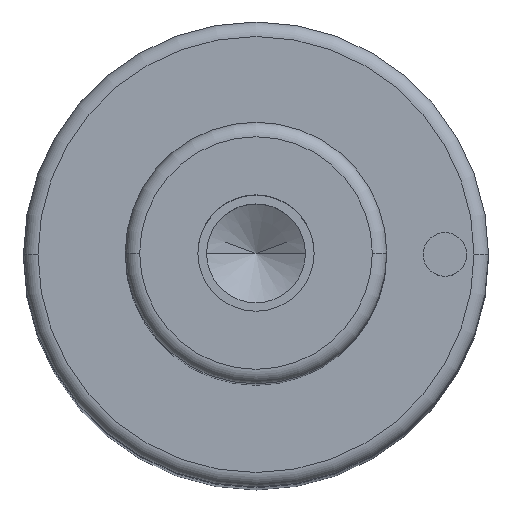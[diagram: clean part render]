
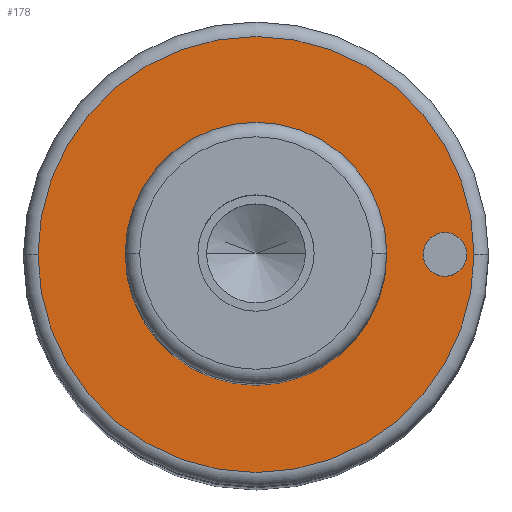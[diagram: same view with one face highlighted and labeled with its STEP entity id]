
A CAD part, top view. The second image highlights one B-rep face of the part: STEP entity #178.
In plain terms, the highlighted planar face has unit normal (0, 0, 1).
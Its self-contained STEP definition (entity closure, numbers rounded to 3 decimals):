
#105=PLANE('',#866);
#115=FACE_BOUND('',#283,.T.);
#116=FACE_BOUND('',#284,.T.);
#117=FACE_BOUND('',#285,.T.);
#178=ADVANCED_FACE('',(#115,#116,#117),#105,.T.);
#283=EDGE_LOOP('',(#473,#474));
#284=EDGE_LOOP('',(#475,#476));
#285=EDGE_LOOP('',(#477,#478));
#333=CIRCLE('',#834,9.);
#334=CIRCLE('',#836,9.);
#338=CIRCLE('',#841,15.);
#339=CIRCLE('',#843,15.);
#351=CIRCLE('',#864,1.5);
#352=CIRCLE('',#865,1.5);
#473=ORIENTED_EDGE('',*,*,#666,.F.);
#474=ORIENTED_EDGE('',*,*,#667,.F.);
#475=ORIENTED_EDGE('',*,*,#685,.F.);
#476=ORIENTED_EDGE('',*,*,#686,.F.);
#477=ORIENTED_EDGE('',*,*,#662,.T.);
#478=ORIENTED_EDGE('',*,*,#660,.T.);
#590=VERTEX_POINT('',#1233);
#591=VERTEX_POINT('',#1235);
#592=VERTEX_POINT('',#1241);
#595=VERTEX_POINT('',#1246);
#604=VERTEX_POINT('',#1285);
#605=VERTEX_POINT('',#1286);
#660=EDGE_CURVE('',#591,#590,#333,.T.);
#662=EDGE_CURVE('',#590,#591,#334,.T.);
#666=EDGE_CURVE('',#595,#592,#338,.T.);
#667=EDGE_CURVE('',#592,#595,#339,.T.);
#685=EDGE_CURVE('',#604,#605,#351,.T.);
#686=EDGE_CURVE('',#605,#604,#352,.T.);
#834=AXIS2_PLACEMENT_3D('',#1234,#985,#986);
#836=AXIS2_PLACEMENT_3D('',#1238,#990,#991);
#841=AXIS2_PLACEMENT_3D('',#1247,#1000,#1001);
#843=AXIS2_PLACEMENT_3D('',#1249,#1004,#1005);
#864=AXIS2_PLACEMENT_3D('',#1284,#1052,#1053);
#865=AXIS2_PLACEMENT_3D('',#1287,#1054,#1055);
#866=AXIS2_PLACEMENT_3D('',#1288,#1056,#1057);
#985=DIRECTION('',(0.,0.,-1.));
#986=DIRECTION('',(0.,1.,0.));
#990=DIRECTION('',(0.,0.,-1.));
#991=DIRECTION('',(0.,-1.,0.));
#1000=DIRECTION('',(0.,0.,-1.));
#1001=DIRECTION('',(0.,1.,0.));
#1004=DIRECTION('',(0.,0.,-1.));
#1005=DIRECTION('',(0.,-1.,0.));
#1052=DIRECTION('',(0.,0.,1.));
#1053=DIRECTION('',(0.,1.,0.));
#1054=DIRECTION('',(0.,0.,1.));
#1055=DIRECTION('',(0.,-1.,0.));
#1056=DIRECTION('',(0.,0.,1.));
#1057=DIRECTION('',(0.,-1.,0.));
#1233=CARTESIAN_POINT('',(-9.,0.,117.));
#1234=CARTESIAN_POINT('',(0.,0.,117.));
#1235=CARTESIAN_POINT('',(9.,0.,117.));
#1238=CARTESIAN_POINT('',(0.,0.,117.));
#1241=CARTESIAN_POINT('',(-15.,0.,117.));
#1246=CARTESIAN_POINT('',(15.,0.,117.));
#1247=CARTESIAN_POINT('',(0.,0.,117.));
#1249=CARTESIAN_POINT('',(0.,0.,117.));
#1284=CARTESIAN_POINT('',(13.,0.,117.));
#1285=CARTESIAN_POINT('',(11.5,0.,117.));
#1286=CARTESIAN_POINT('',(14.5,0.,117.));
#1287=CARTESIAN_POINT('',(13.,0.,117.));
#1288=CARTESIAN_POINT('',(0.,0.,117.));
